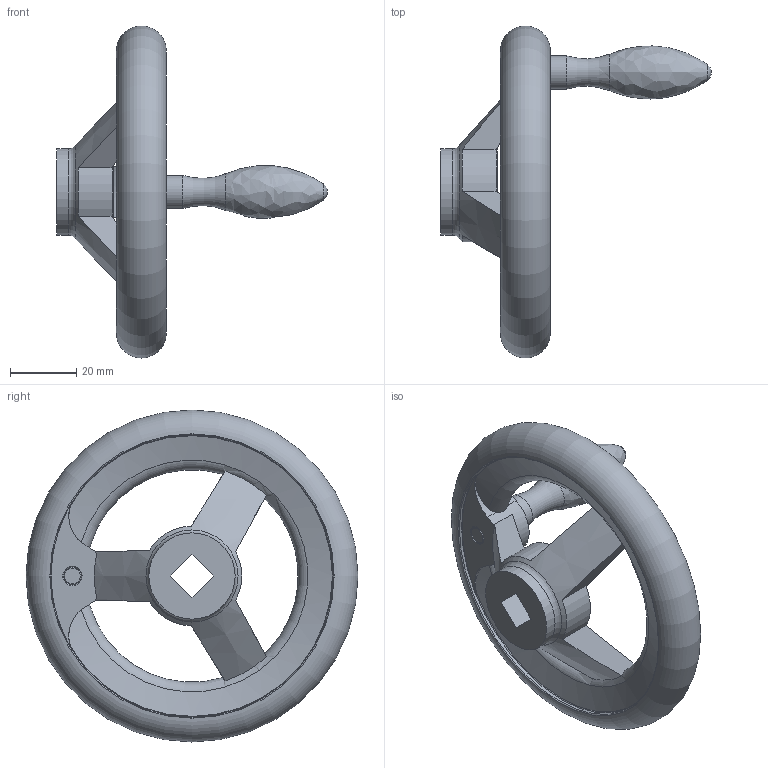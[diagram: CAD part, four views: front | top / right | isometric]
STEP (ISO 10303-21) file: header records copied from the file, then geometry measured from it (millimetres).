
FILE_DESCRIPTION( ( 'STEP AP203' ), '1' );
FILE_NAME( 'C:/Temp/Ganter_Step_05_03_2020/data/1_3/din_950/din_950_v/din_950_v_f/Handwheel DIN 950-GG-100-V9-F.stp', '2020-03-05T10:31:44', ( 'License CC BY-ND 4.0' ), ( 'CADENAS' ), ' ', 'PARTsolutions', ' ' );
FILE_SCHEMA( ( 'CONFIG_CONTROL_DESIGN' ) );
Length unit declared in the file: millimetre
Products named in the file (1): _Handwheel DIN 950-GG-100-V9-F
Bounding box: 81.5 x 100 x 100 mm (x, y, z)
Volume: 70234 mm3; surface area: 21292.8 mm2
Topology: 1 solids, 1 shells, 47 faces, 133 edges, 85 vertices
Faces by surface type: plane 15, cylinder 13, torus 11, cone 6, sphere 1, bspline 1
Full cylindrical faces by diameter (mm): 10 x1, 26 x2, 85 x2
Entity records: 1727 total; most frequent: CARTESIAN_POINT 613, ORIENTED_EDGE 212, DIRECTION 208, EDGE_CURVE 106, AXIS2_PLACEMENT_3D 92, VERTEX_POINT 79, EDGE_LOOP 71, FACE_OUTER_BOUND 61
